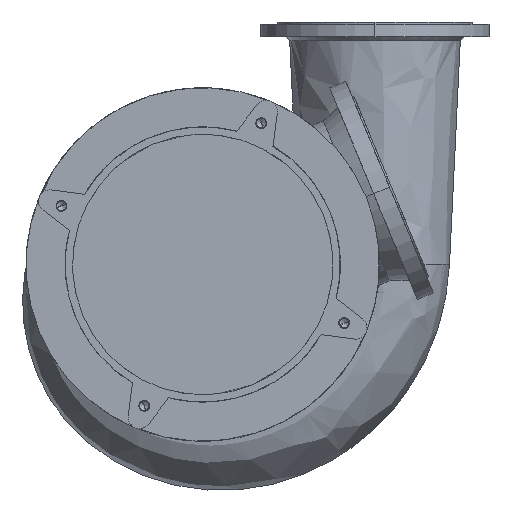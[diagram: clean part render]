
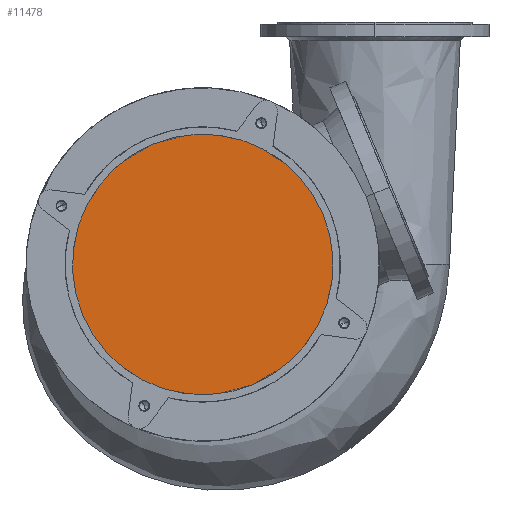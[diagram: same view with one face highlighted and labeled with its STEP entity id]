
A CAD part, front view. The second image highlights one B-rep face of the part: STEP entity #11478.
In plain terms, the highlighted planar face has unit normal (0, -1, 0).
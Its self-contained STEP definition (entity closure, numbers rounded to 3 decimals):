
#4881=CARTESIAN_POINT('',(0.,0.,0.));
#4882=DIRECTION('',(0.,-1.,0.));
#4883=DIRECTION('',(0.,0.,1.));
#4884=AXIS2_PLACEMENT_3D('',#4881,#4882,#4883);
#4886=CARTESIAN_POINT('',(0.,0.,0.));
#4887=DIRECTION('',(0.,-1.,0.));
#4888=DIRECTION('',(0.,0.,-1.));
#4889=AXIS2_PLACEMENT_3D('',#4886,#4887,#4888);
#11263=CARTESIAN_POINT('',(0.,0.,287.5));
#11264=CARTESIAN_POINT('',(0.,0.,-287.5));
#11265=VERTEX_POINT('',#11263);
#11266=VERTEX_POINT('',#11264);
#11467=CARTESIAN_POINT('',(0.,0.,0.));
#11468=DIRECTION('',(0.,1.,0.));
#11469=DIRECTION('',(0.,0.,-1.));
#11470=AXIS2_PLACEMENT_3D('',#11467,#11468,#11469);
#11471=PLANE('',#11470);
#11473=ORIENTED_EDGE('',*,*,#11472,.F.);
#11475=ORIENTED_EDGE('',*,*,#11474,.F.);
#11476=EDGE_LOOP('',(#11473,#11475));
#11477=FACE_OUTER_BOUND('',#11476,.F.);
#11478=ADVANCED_FACE('',(#11477),#11471,.F.);
#4885=CIRCLE('',#4884,287.5);
#4890=CIRCLE('',#4889,287.5);
#11472=EDGE_CURVE('',#11265,#11266,#4885,.T.);
#11474=EDGE_CURVE('',#11266,#11265,#4890,.T.);
